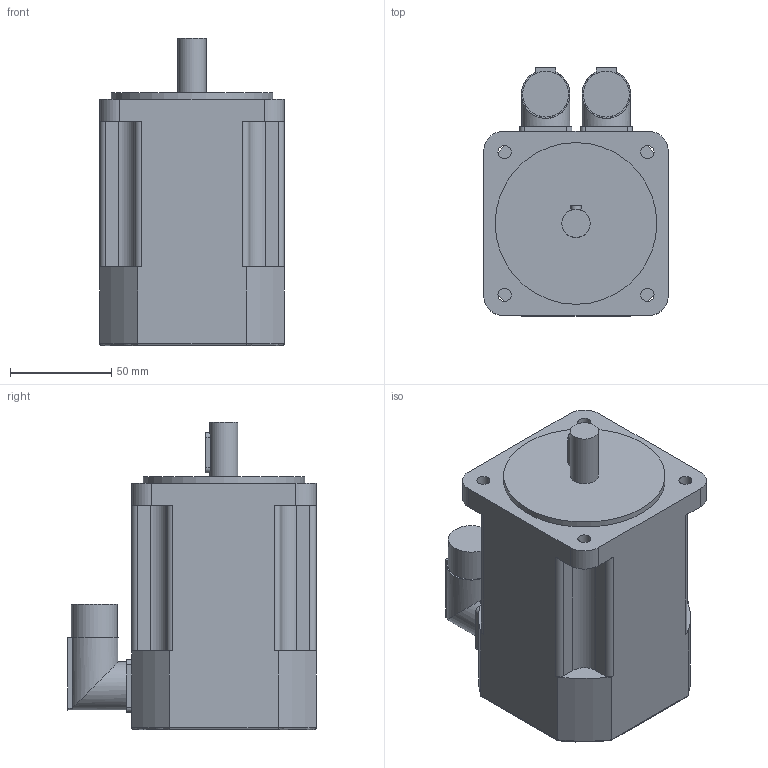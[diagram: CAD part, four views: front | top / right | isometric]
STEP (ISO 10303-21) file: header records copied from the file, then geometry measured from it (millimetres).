
FILE_DESCRIPTION(/* description */ (''),/* implementation_level */ '2;1');
FILE_NAME(/* name */ '\\Lafnas01\disegni\Archivi Lafert\3D\CAD 3D\MODELLI\Assiemi clienti\Serad\Modelli 3D Serad\B56Q\Resolver\Res Without Brake\B56E3Qxx6A052033.ipt.stp',/* time_stamp */ '2015-09-07T10:50:20+02:00',/* author */ ('Pastrello Ylenia'),/* organization */ (''),/* preprocessor_version */ 'ST-DEVELOPER v15.6',/* originating_system */ 'Autodesk Inventor 2015',/* authorisation */ '');
FILE_SCHEMA (('AUTOMOTIVE_DESIGN { 1 0 10303 214 3 1 1 }'));
Length unit declared in the file: millimetre
Products named in the file (1): B56E3Qxx6A052033
Bounding box: 91.3 x 122.8 x 152 mm (x, y, z)
Volume: 978844.9 mm3; surface area: 70421.5 mm2
Topology: 1 solids, 1 shells, 99 faces, 260 edges, 170 vertices
Faces by surface type: plane 49, cylinder 46, torus 4
Full cylindrical faces by diameter (mm): 6.5 x4, 14 x1, 22.7 x2, 24 x2, 80 x1
Entity records: 3176 total; most frequent: CARTESIAN_POINT 658, DIRECTION 534, ORIENTED_EDGE 500, EDGE_CURVE 250, AXIS2_PLACEMENT_3D 194, VERTEX_POINT 170, LINE 146, VECTOR 146
